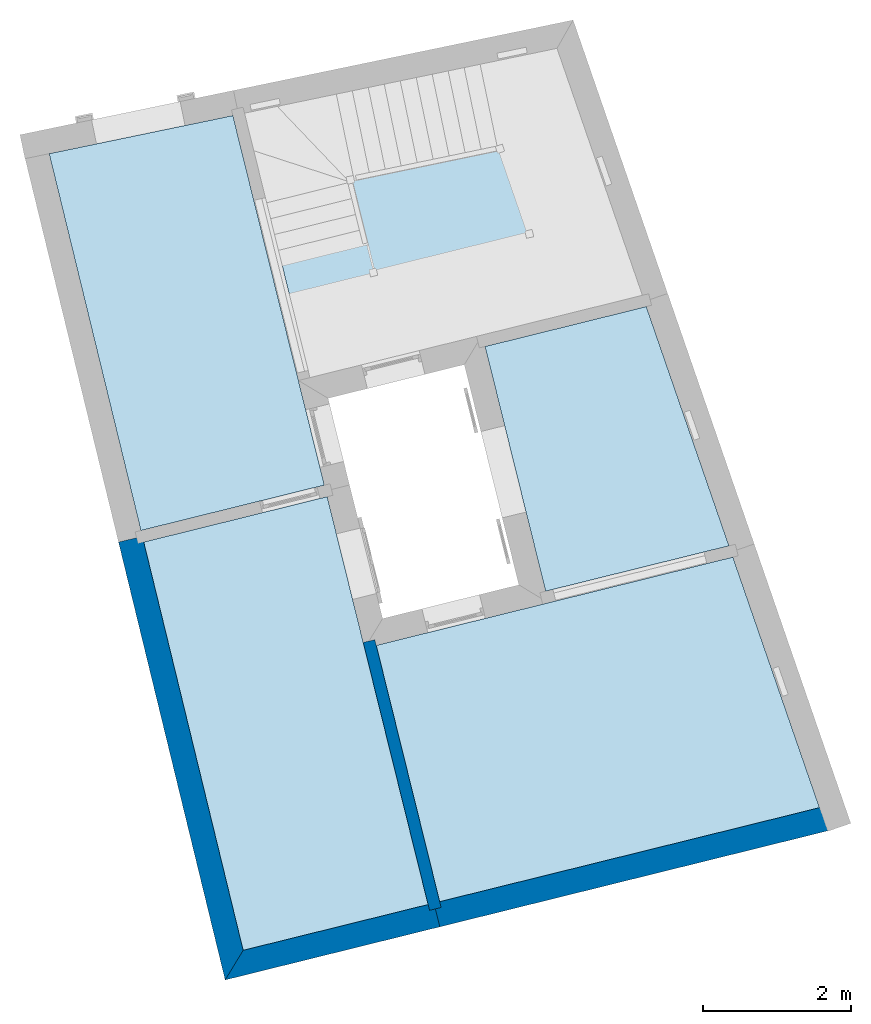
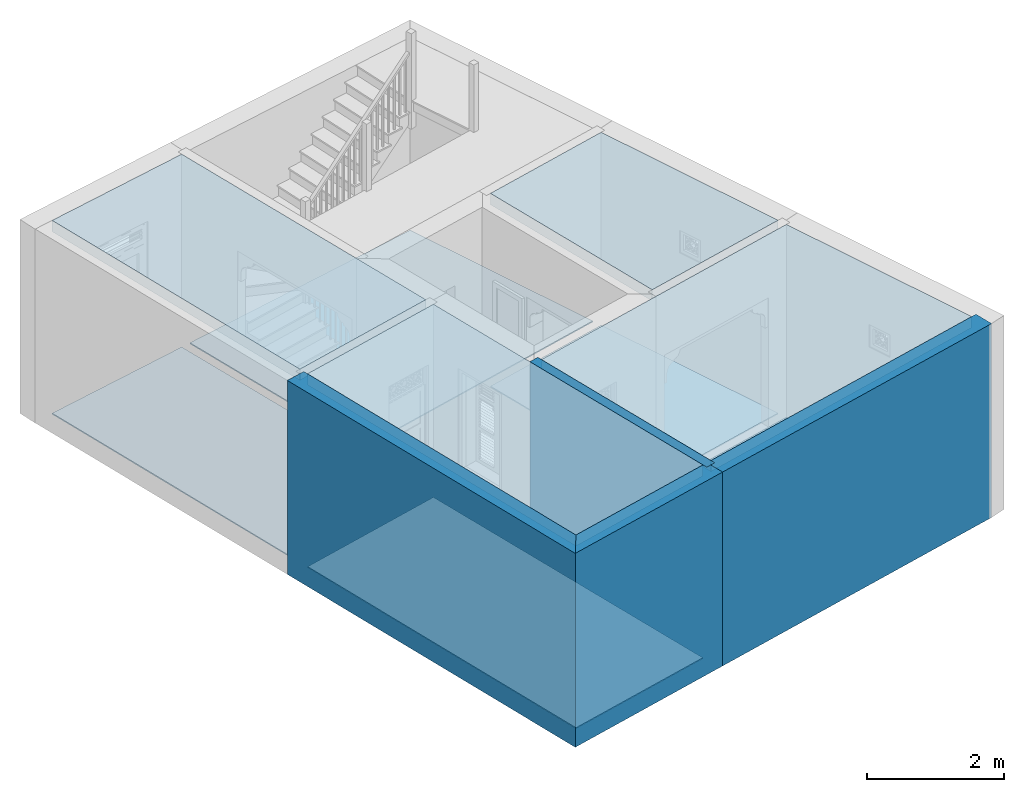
# One storey, part 1 of 10: 9 slabs, 4 walls.
"""IFC4 building model written with IfcOpenShell, lengths in metres."""

from ifc_helpers import new_model, si_unit, frame, origin_with_axes, place, context, subcontext, project, spatial, polyline, outline, extrude, material, layer, layer_set, layer_usage, type_object, element, save


model = new_model("IFC4")

# Units and contexts
model_context = context("Model", 3, world=origin_with_axes())
body_context = subcontext(model_context, "Body", "Model", "MODEL_VIEW")
ifc_project = project(units=[si_unit("PLANEANGLEUNIT", "RADIAN"), si_unit("MASSUNIT", "GRAM", prefix="KILO"), si_unit("FORCEUNIT", "NEWTON", prefix="KILO"), si_unit("LENGTHUNIT", "METRE"), si_unit("AREAUNIT", "SQUARE_METRE"), si_unit("VOLUMEUNIT", "CUBIC_METRE")], contexts=[model_context, model_context])

# Site, building, storey
site_placement = place(None, origin_with_axes())
site = spatial("IfcSite", under=ifc_project, at=site_placement, Name="Site plot-5", CompositionType="ELEMENT")
building_placement = place(None, origin_with_axes())
building = spatial("IfcBuilding", under=site, at=building_placement, Name="Building plot-5", CompositionType="ELEMENT")
storey_placement = place(None, origin_with_axes())
storey = spatial("IfcBuildingStorey", under=building, at=storey_placement, Name="plot-5 0", CompositionType="ELEMENT", Elevation=0.0)

# Slabs
slab_1_placement = place(storey_placement, frame((22.7314638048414, 28.4942483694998, 3.25)))
element("IfcSlab", 1, at=slab_1_placement, inside=storey, Name="My Slab", ObjectType="Slab", PredefinedType="FLOOR", context=body_context, shape_type="SweptSolid", body=[
    extrude(outline(polyline([(0.0, 0.0), (-2.17351924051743, -0.537944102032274), (-1.35694832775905, -3.837232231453), (1.11496157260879, -3.22543670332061), (0.0, 0.0)])), origin_with_axes(), (0.0, 0.0, 1.0), 0.2),
])
slab_2_placement = place(storey_placement, frame((22.7314638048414, 28.4942483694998, 0.0)))
element("IfcSlab", 2, at=slab_2_placement, inside=storey, Name="My Slab", ObjectType="Slab", PredefinedType="FLOOR", context=body_context, shape_type="SweptSolid", body=[
    extrude(outline(polyline([(0.0, 0.0), (-2.17351924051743, -0.537944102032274), (-1.35694832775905, -3.837232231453), (1.11496157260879, -3.22543670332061), (0.0, 0.0)])), origin_with_axes(), (0.0, 0.0, 1.0), 0.02),
])
slab_3_placement = place(storey_placement, frame((22.678977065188, 28.6460855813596, 0.0)))
element("IfcSlab", 3, at=slab_3_placement, inside=storey, Name="My Slab", ObjectType="Slab", PredefinedType="FLOOR", context=body_context, shape_type="SweptSolid", body=[
    extrude(outline(polyline([(0.0, 0.0), (-1.15099847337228, 3.32968670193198), (-5.36391690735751, 2.45574118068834), (-4.48159911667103, -1.10919184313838), (0.0, 0.0)])), origin_with_axes(), (0.0, 0.0, 1.0), 0.02),
])
slab_4_placement = place(storey_placement, frame((19.7907082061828, 20.4332002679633, 3.25)))
element("IfcSlab", 4, at=slab_4_placement, inside=storey, Name="My Slab", ObjectType="Slab", PredefinedType="FLOOR", context=body_context, shape_type="SweptSolid", body=[
    extrude(outline(polyline([(0.0, 0.0), (-1.36096184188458, 5.4988552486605), (-3.83431252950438, 4.88670312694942), (-2.49397107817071, -0.617255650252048), (0.0, 0.0)])), origin_with_axes(), (0.0, 0.0, 1.0), 0.2),
])
slab_5_placement = place(storey_placement, frame((19.7907082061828, 20.4332002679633, 0.0)))
element("IfcSlab", 5, at=slab_5_placement, inside=storey, Name="My Slab", ObjectType="Slab", PredefinedType="FLOOR", context=body_context, shape_type="SweptSolid", body=[
    extrude(outline(polyline([(0.0, 0.0), (-1.36096184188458, 5.4988552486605), (-3.83431252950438, 4.88670312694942), (-2.49397107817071, -0.617255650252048), (0.0, 0.0)])), origin_with_axes(), (0.0, 0.0, 1.0), 0.02),
])
slab_6_placement = place(storey_placement, frame((18.3913063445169, 26.0873692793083, 3.25)))
element("IfcSlab", 6, at=slab_6_placement, inside=storey, Name="My Slab", ObjectType="Slab", PredefinedType="FLOOR", context=body_context, shape_type="SweptSolid", body=[
    extrude(outline(polyline([(0.0, 0.0), (-1.23302446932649, 4.98193473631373), (-3.70989753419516, 4.46812176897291), (-2.47276826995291, -0.612007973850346), (0.0, 0.0)])), origin_with_axes(), (0.0, 0.0, 1.0), 0.2),
])
slab_7_placement = place(storey_placement, frame((18.3913063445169, 26.0873692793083, 0.0)))
element("IfcSlab", 7, at=slab_7_placement, inside=storey, Name="My Slab", ObjectType="Slab", PredefinedType="FLOOR", context=body_context, shape_type="SweptSolid", body=[
    extrude(outline(polyline([(0.0, 0.0), (-1.23302446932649, 4.98193473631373), (-3.70989753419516, 4.46812176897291), (-2.47276826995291, -0.612007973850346), (0.0, 0.0)])), origin_with_axes(), (0.0, 0.0, 1.0), 0.02),
])
slab_8_placement = place(storey_placement, frame((19.0908289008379, 23.9269780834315, 3.25)))
element("IfcSlab", 8, at=slab_8_placement, inside=storey, Name="My Slab", ObjectType="Slab", PredefinedType="FLOOR", context=body_context, shape_type="SweptSolid", body=[
    extrude(outline(polyline([(0.0, 0.0), (0.855193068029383, -3.45533779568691), (5.97578021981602, -2.18799697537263), (4.80808321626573, 1.18999637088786), (0.0, 0.0)])), origin_with_axes(), (0.0, 0.0, 1.0), 0.2),
])
slab_9_placement = place(storey_placement, frame((19.0908289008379, 23.9269780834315, 0.0)))
element("IfcSlab", 9, at=slab_9_placement, inside=storey, Name="My Slab", ObjectType="Slab", PredefinedType="FLOOR", context=body_context, shape_type="SweptSolid", body=[
    extrude(outline(polyline([(0.0, 0.0), (0.855193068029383, -3.45533779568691), (5.97578021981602, -2.18799697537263), (4.80808321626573, 1.18999637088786), (0.0, 0.0)])), origin_with_axes(), (0.0, 0.0, 1.0), 0.02),
])

# Walls
ifc_material_1 = material(Name="Masonry")
ifc_layer_1 = layer(ifc_material_1, 0.33, ventilated=False)
ifc_layer_set_1 = layer_set([ifc_layer_1], Name="party_0.08_0.25")
ifc_layer_usage_1 = layer_usage(ifc_layer_set_1, "AXIS2", "POSITIVE", -0.25)
wall_type_1 = type_object("IfcWallType", Name="party_0.08_0.25", PredefinedType="SOLIDWALL", material=ifc_layer_set_1)
wall_1_placement = place(storey_placement, frame((15.8598094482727, 25.3784122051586, 0.0), z_axis=(0.0, 0.0, 1.0), x_axis=(0.236608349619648, -0.971605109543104, 0.0)))
element("IfcWall", 10, at=wall_1_placement, inside=storey, type_object=wall_type_1, material=ifc_layer_usage_1, Name="party", context=body_context, shape_type="SweptSolid", body=[
    extrude(outline(polyline([(-3.06285495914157e-17, 0.0800000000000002), (-1.15614727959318e-15, -0.25), (6.07575081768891, -0.250000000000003), (5.74451101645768, 0.0799999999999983), (-3.06285495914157e-17, 0.0800000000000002)])), origin_with_axes(), (0.0, 0.0, 1.0), 3.45),
])
wall_2_placement = place(storey_placement, frame((17.2380085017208, 19.7189955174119, 0.0), z_axis=(0.0, 0.0, 1.0), x_axis=(0.970711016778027, 0.240250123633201, 0.0)))
element("IfcWall", 11, at=wall_2_placement, inside=storey, type_object=wall_type_1, material=ifc_layer_usage_1, Name="party", context=body_context, shape_type="SweptSolid", body=[
    extrude(outline(polyline([(0.080300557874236, 0.0799999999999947), (-0.250939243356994, -0.250000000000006), (2.72952150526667, -0.25), (2.72952150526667, 0.0800000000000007), (0.080300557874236, 0.0799999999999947)])), origin_with_axes(), (0.0, 0.0, 1.0), 3.45),
])
wall_3_placement = place(storey_placement, frame((19.8875850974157, 20.3747633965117, 0.0), z_axis=(0.0, 0.0, 1.0), x_axis=(0.970711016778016, 0.240250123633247, 0.0)))
element("IfcWall", 12, at=wall_3_placement, inside=storey, type_object=wall_type_1, material=ifc_layer_usage_1, Name="party", context=body_context, shape_type="SweptSolid", body=[
    extrude(outline(polyline([(4.00170147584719e-15, 0.0800000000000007), (-1.13644779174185e-14, -0.25), (5.4426509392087, -0.249999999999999), (5.4426509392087, 0.0800000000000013), (4.00170147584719e-15, 0.0800000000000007)])), origin_with_axes(), (0.0, 0.0, 1.0), 3.45),
])
ifc_material_2 = material(Name="Masonry")
ifc_layer_2 = layer(ifc_material_2, 0.16, ventilated=False)
ifc_layer_set_2 = layer_set([ifc_layer_2], Name="interior_0.08_0.08")
ifc_layer_usage_2 = layer_usage(ifc_layer_set_2, "AXIS2", "POSITIVE", -0.08)
wall_type_2 = type_object("IfcWallType", Name="interior_0.08_0.08", PredefinedType="SOLIDWALL", material=ifc_layer_set_2)
wall_4_placement = place(storey_placement, frame((19.8875850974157, 20.3747633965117, 0.0), z_axis=(0.0, 0.0, 1.0), x_axis=(-0.24025012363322, 0.970711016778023, 0.0)))
element("IfcWall", 13, at=wall_4_placement, inside=storey, type_object=wall_type_2, material=ifc_layer_usage_2, Name="interior", context=body_context, shape_type="SweptSolid", body=[
    extrude(outline(polyline([(1.74572828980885e-15, 0.0800000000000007), (-1.71816754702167e-15, -0.0800000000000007), (3.71959470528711, -0.0800000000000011), (3.71959470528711, 0.0800000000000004), (1.74572828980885e-15, 0.0800000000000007)])), origin_with_axes(), (0.0, 0.0, 1.0), 3.45),
])

save(model, "model.ifc")
